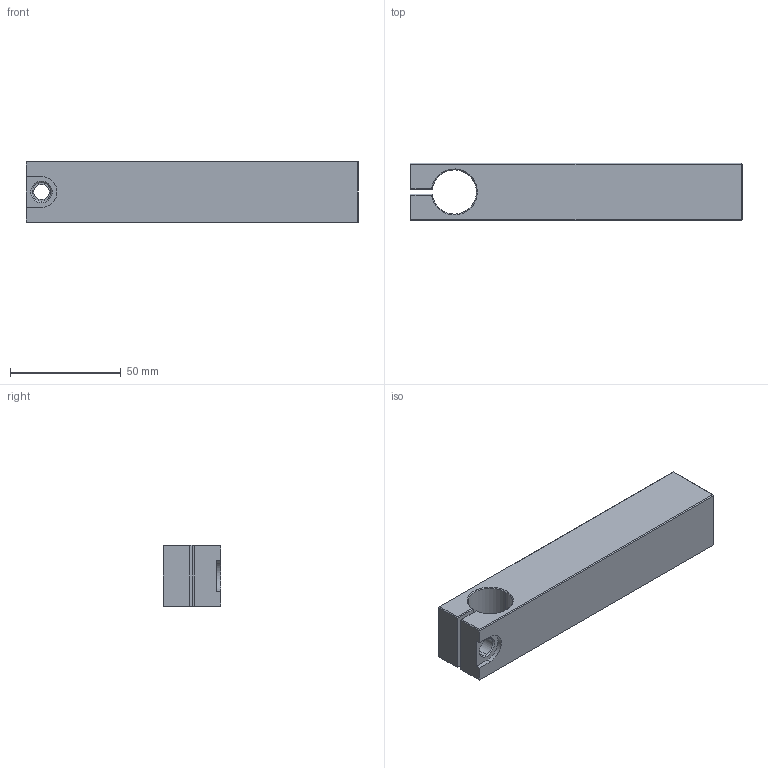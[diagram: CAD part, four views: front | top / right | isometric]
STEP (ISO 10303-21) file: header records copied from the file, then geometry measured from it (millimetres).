
FILE_DESCRIPTION (( 'STEP AP203' ), '1' );
FILE_NAME ('WHZ0500-F.step', '2010-04-21T15:42:55', ( ' ' ), ( ' ' ), 'SwSTEP 2.0', 'SolidWorks 2009', '' );
FILE_SCHEMA (( 'CONFIG_CONTROL_DESIGN' ));
Length unit declared in the file: millimetre
Products named in the file (1): WHZ0500-F
Bounding box: 150 x 26 x 28 mm (x, y, z)
Volume: 98332.3 mm3; surface area: 19311.7 mm2
Topology: 1 solids, 1 shells, 47 faces, 111 edges, 65 vertices
Faces by surface type: plane 33, cylinder 9, cone 5
Entity records: 1465 total; most frequent: CARTESIAN_POINT 302, DIRECTION 226, ORIENTED_EDGE 222, EDGE_CURVE 111, VECTOR 80, LINE 80, AXIS2_PLACEMENT_3D 73, VERTEX_POINT 65
